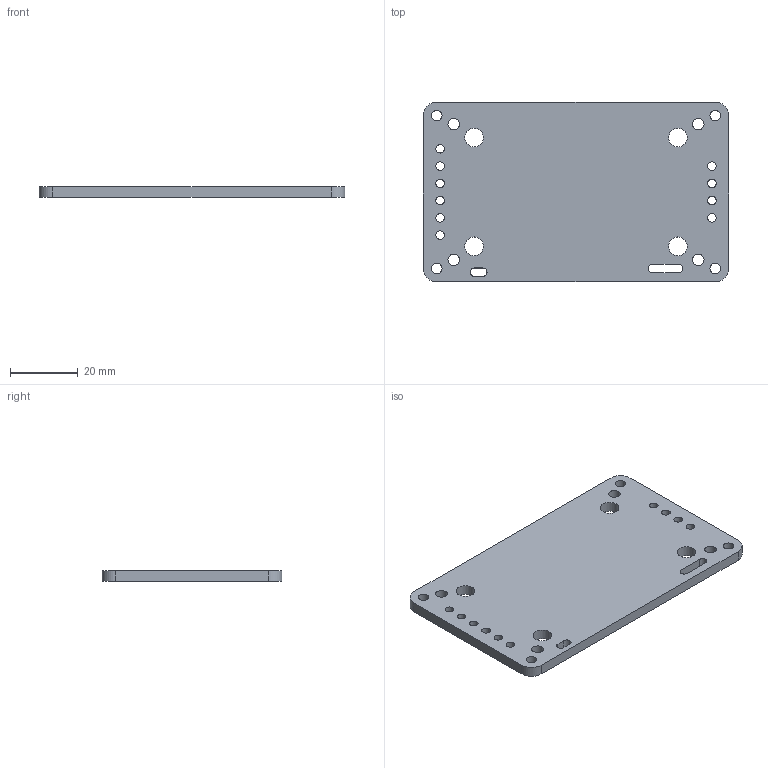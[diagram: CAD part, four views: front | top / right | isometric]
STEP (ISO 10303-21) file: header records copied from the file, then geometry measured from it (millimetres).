
FILE_DESCRIPTION(/* description */ (''),/* implementation_level */ '2;1');
FILE_NAME(/* name */ 'PN Labs Power Pal Enclosure Bottom Plate V1.step',/* time_stamp */ '2026-08-02T16:49:40-04:00',/* author */ (''),/* organization */ (''),/* preprocessor_version */ 'ST-DEVELOPER v20.1',/* originating_system */ 'Autodesk Translation Framework v15.8.0.0',/* authorisation */ '');
FILE_SCHEMA (('AUTOMOTIVE_DESIGN { 1 0 10303 214 3 1 1 }'));
Length unit declared in the file: millimetre
Products named in the file (1): 2026-08-02-20-47-15-221
Bounding box: 89.97 x 52.97 x 3.17 mm (x, y, z)
Volume: 14309.6 mm3; surface area: 10742.2 mm2
Topology: 1 solids, 1 shells, 41 faces, 117 edges, 78 vertices
Faces by surface type: cylinder 30, plane 11
Full cylindrical faces by diameter (mm): 2.5 x10, 3.1 x4, 3.4 x4, 5.5 x4
Entity records: 1507 total; most frequent: DIRECTION 261, CARTESIAN_POINT 237, ORIENTED_EDGE 234, EDGE_CURVE 117, AXIS2_PLACEMENT_3D 102, EDGE_LOOP 89, VERTEX_POINT 78, CIRCLE 60
